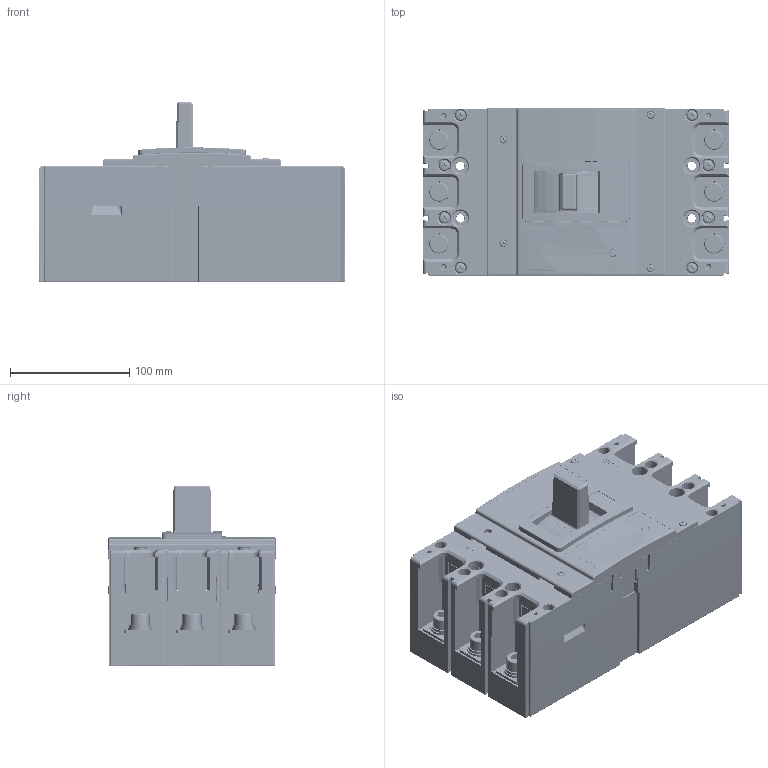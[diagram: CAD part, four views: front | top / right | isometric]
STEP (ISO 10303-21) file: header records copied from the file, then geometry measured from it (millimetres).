
FILE_DESCRIPTION(/* description */ (''),/* implementation_level */ '2;1');
FILE_NAME(/* name */ 'CMM-400-3P-Drawing-3D.stp',/* time_stamp */ '2025-07-08T09:40:25-03:00',/* author */ ('guilh'),/* organization */ (''),/* preprocessor_version */ 'ST-DEVELOPER v20',/* originating_system */ 'Autodesk Inventor 2024',/* authorisation */ '');
FILE_SCHEMA (('AUTOMOTIVE_DESIGN { 1 0 10303 214 3 1 1 }'));
Products named in the file (38): YCM8-400-3P-Drawing-3D; YCM8-400-3P-Drawing-3D_1; YCM8-400-3P-Drawing-3D_1_1; YCM8-400-3P-Drawing-3D_2; YCM8-400-3P-Drawing-3D_3; YCM8-400-3P-Drawing-3D_4; YCM8-400-3P-Drawing-3D_5; YCM8-400-3P-Drawing-3D_6; YCM8-400-3P-Drawing-3D_7; YCM8-400-3P-Drawing-3D_8; YCM8-400-3P-Drawing-3D_9; YCM8-400-3P-Drawing-3D_10; YCM8-400-3P-Drawing-3D_11; YCM8-400-3P-Drawing-3D_12; YCM8-400-3P-Drawing-3D_13; YCM8-400-3P-Drawing-3D_14; YCM8-400-3P-Drawing-3D_15; YCM8-400-3P-Drawing-3D_16; YCM8-400-3P-Drawing-3D_17; YCM8-400-3P-Drawing-3D_18; YCM8-400-3P-Drawing-3D_19; YCM8-400-3P-Drawing-3D_20; YCM8-400-3P-Drawing-3D_21; YCM8-400-3P-Drawing-3D_22; YCM8-400-3P-Drawing-3D_23; YCM8-400-3P-Drawing-3D_24; YCM8-400-3P-Drawing-3D_25; YCM8-400-3P-Drawing-3D_26; YCM8-400-3P-Drawing-3D_27; YCM8-400-3P-Drawing-3D_28; YCM8-400-3P-Drawing-3D_29; YCM8-400-3P-Drawing-3D_30; YCM8-400-3P-Drawing-3D_31; YCM8-400-3P-Drawing-3D_32; YCM8-400-3P-Drawing-3D_33; YCM8-400-3P-Drawing-3D_34; YCM8-400-3P-Drawing-3D_35; YCM8-400-3P-Drawing-3D_36
Assembly tree (87 placements, depth 2):
  YCM8-400-3P-Drawing-3D
    YCM8-400-3P-Drawing-3D_1  x6
    YCM8-400-3P-Drawing-3D_1_1  x6
    YCM8-400-3P-Drawing-3D_2  x6
    YCM8-400-3P-Drawing-3D_3  x2
    YCM8-400-3P-Drawing-3D_4  x2
    YCM8-400-3P-Drawing-3D_5  x2
    YCM8-400-3P-Drawing-3D_6  x2
    YCM8-400-3P-Drawing-3D_7  x2
    YCM8-400-3P-Drawing-3D_8  x2
    YCM8-400-3P-Drawing-3D_9
    YCM8-400-3P-Drawing-3D_10  x9
    YCM8-400-3P-Drawing-3D_11  x9
    YCM8-400-3P-Drawing-3D_12
    YCM8-400-3P-Drawing-3D_13
    YCM8-400-3P-Drawing-3D_14
    YCM8-400-3P-Drawing-3D_15
    YCM8-400-3P-Drawing-3D_16  x3
    YCM8-400-3P-Drawing-3D_17  x3
    YCM8-400-3P-Drawing-3D_18  x3
    YCM8-400-3P-Drawing-3D_19
    YCM8-400-3P-Drawing-3D_20
    YCM8-400-3P-Drawing-3D_21
    YCM8-400-3P-Drawing-3D_22
    YCM8-400-3P-Drawing-3D_23
    YCM8-400-3P-Drawing-3D_24
    YCM8-400-3P-Drawing-3D_25
    YCM8-400-3P-Drawing-3D_26
    YCM8-400-3P-Drawing-3D_27
    YCM8-400-3P-Drawing-3D_28
    YCM8-400-3P-Drawing-3D_29
    YCM8-400-3P-Drawing-3D_30
    YCM8-400-3P-Drawing-3D_31
    YCM8-400-3P-Drawing-3D_32
    YCM8-400-3P-Drawing-3D_33
    YCM8-400-3P-Drawing-3D_34  x4
    YCM8-400-3P-Drawing-3D_35  x3
    YCM8-400-3P-Drawing-3D_36  x3
Bounding box: 257 x 140 x 151.23 mm (x, y, z)
Volume: 1160789.8 mm3; surface area: 668810.1 mm2
Topology: 87 solids, 87 shells, 5834 faces, 15841 edges, 10338 vertices
Faces by surface type: plane 3286, cylinder 1635, bspline 433, cone 240, torus 203, sphere 37
Full cylindrical faces by diameter (mm): 2.659 x4, 2.754 x80, 3 x5, 3.15 x4, 3.2 x42, 3.354 x80, 3.5 x9, 3.9 x6, 4 x43, 4.2 x135, 4.48 x9, 4.6 x8, 5 x163, 5.4 x1, 5.5 x26, 5.8 x2, 5.85 x8, 6 x2, 6.2 x1, 6.3 x1, 6.5 x4, 7 x12, 7.5 x20, 8.282 x1, 8.7 x4, 8.782 x1, 8.82 x9, 8.9 x1, 9.1 x4, 9.5 x9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
Entity records: 265699 total; most frequent: CARTESIAN_POINT 138271, ORIENTED_EDGE 26666, DIRECTION 23552, EDGE_CURVE 13333, VERTEX_POINT 8719, LINE 8664, VECTOR 8664, AXIS2_PLACEMENT_3D 7444
